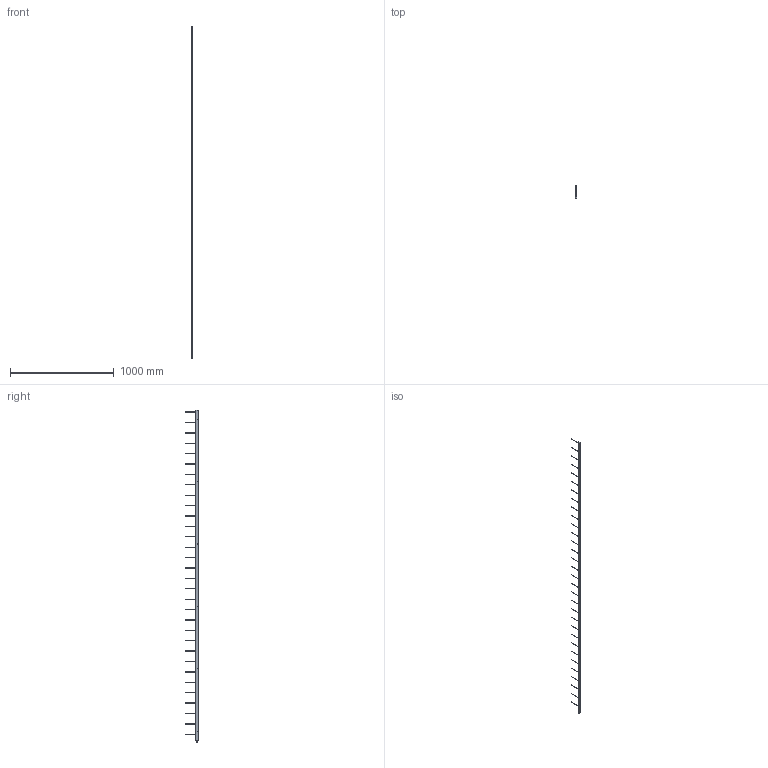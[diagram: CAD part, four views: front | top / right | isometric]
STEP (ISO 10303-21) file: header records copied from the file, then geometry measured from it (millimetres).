
FILE_DESCRIPTION (( 'STEP AP203' ), '1' );
FILE_NAME ('CSL505-RxTx100-3100-M8.STEP', '2016-02-16T09:48:01', ( '' ), ( '' ), 'SwSTEP 2.0', 'SolidWorks 2015', '' );
FILE_SCHEMA (( 'CONFIG_CONTROL_DESIGN' ));
Length unit declared in the file: millimetre
Products named in the file (2): CSL505-RxTx100-3100-M8
Bounding box: 10 x 125.2 x 3194 mm (x, y, z)
Volume: 864885.1 mm3; surface area: 271781.6 mm2
Topology: 1 solids, 1 shells, 250 faces, 604 edges, 390 vertices
Faces by surface type: plane 126, cylinder 112, cone 12
Entity records: 7497 total; most frequent: DIRECTION 1342, CARTESIAN_POINT 1246, ORIENTED_EDGE 1208, EDGE_CURVE 604, AXIS2_PLACEMENT_3D 486, VERTEX_POINT 390, LINE 370, VECTOR 370
